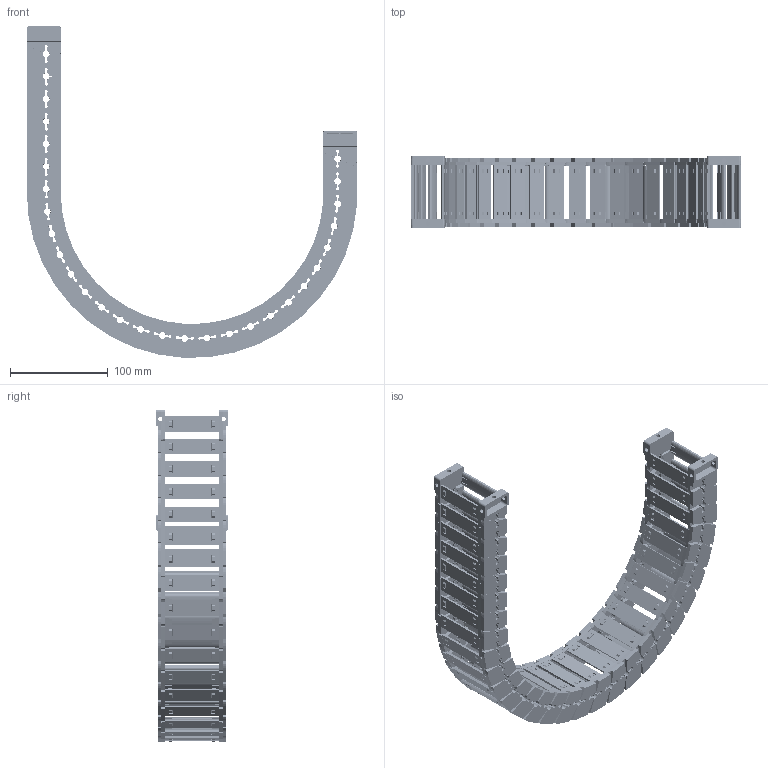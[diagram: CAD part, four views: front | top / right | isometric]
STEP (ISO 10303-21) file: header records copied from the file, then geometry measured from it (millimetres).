
FILE_DESCRIPTION((''),'2;1');
FILE_NAME('JY-28X55-R150_ASM','2026-03-25T20:49:47',('admin'),(''),'CREO PARAMETRIC BY PTC INC, 2021023','CREO PARAMETRIC BY PTC INC, 2021023','');
FILE_SCHEMA(('CONFIG_CONTROL_DESIGN'));
Length unit declared in the file: millimetre
Products named in the file (11): 28XL-L; 25-35XL-YP; 28XL-R; ASM0001_ASM; 28-LTT-A-L; 28-LTT-A-R; 28XL-LTT-A_ASM; 28-LTT-B-L; 28-LTT-B-R; 28XL-LTT-B_ASM; JY-28X55-R150_ASM
Assembly tree (42 placements, depth 3):
  JY-28X55-R150_ASM
    ASM0001_ASM  x28
      28XL-L
      25-35XL-YP
      28XL-R
    28XL-LTT-A_ASM
      28-LTT-A-L
      25-35XL-YP  x2
      28-LTT-A-R
    28XL-LTT-B_ASM
      28-LTT-B-L
      25-35XL-YP  x2
      28-LTT-B-R
Bounding box: 337.23 x 73.5 x 338.94 mm (x, y, z)
Volume: 469960.4 mm3; surface area: 340255.7 mm2
Topology: 120 solids, 120 shells, 9750 faces, 28988 edges, 19358 vertices
Faces by surface type: plane 6392, cone 1766, cylinder 1394, bspline 198
Entity records: 29175 total; most frequent: CARTESIAN_POINT 9500, ORIENTED_EDGE 4352, DIRECTION 3675, EDGE_CURVE 2176, VERTEX_POINT 1454, VECTOR 1365, LINE 1365, AXIS2_PLACEMENT_3D 1155
